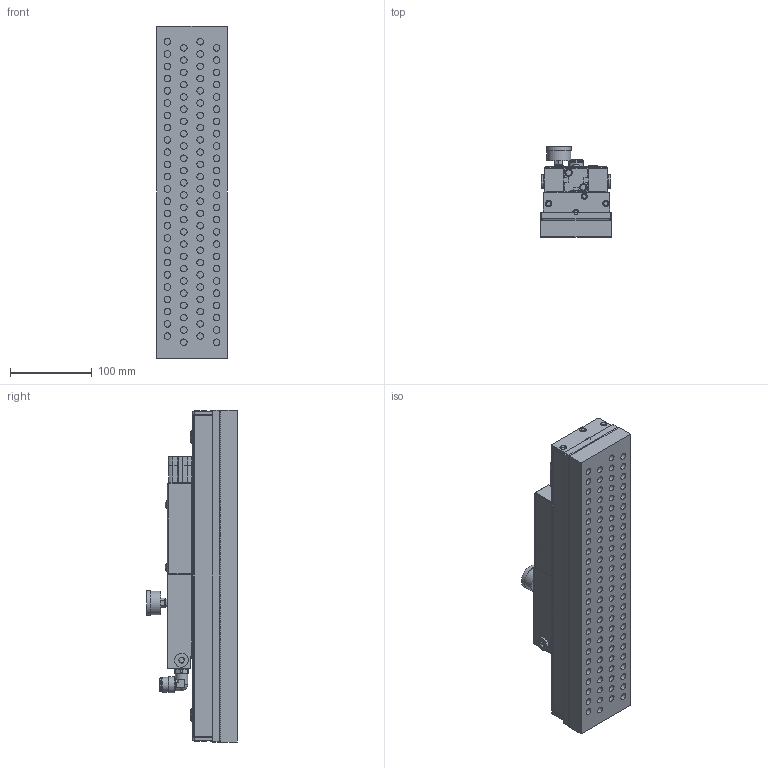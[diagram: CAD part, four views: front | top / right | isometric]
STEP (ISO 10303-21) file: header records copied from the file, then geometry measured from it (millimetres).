
FILE_DESCRIPTION (( 'STEP AP203' ), '1' );
FILE_NAME ('9671-040-014.STEP', '2014-03-20T08:00:25', ( '' ), ( '' ), 'SwSTEP 2.0', 'SolidWorks 2014', '' );
FILE_SCHEMA (( 'CONFIG_CONTROL_DESIGN' ));
Length unit declared in the file: millimetre
Products named in the file (1): 9671-040-014
Bounding box: 86 x 110.5 x 406 mm (x, y, z)
Volume: 2183917.6 mm3; surface area: 279494.3 mm2
Topology: 1 solids, 1 shells, 1130 faces, 2642 edges, 1688 vertices
Faces by surface type: plane 709, cylinder 333, cone 40, bspline 30, torus 13, sphere 5
Full cylindrical faces by diameter (mm): 4 x2, 5 x1, 6 x2, 6.5 x2, 6.8 x4, 8 x101, 8.5 x4, 9.2 x2, 9.5 x4, 9.77 x1, 10.7 x2, 12 x1, 13.157 x2, 14.8 x9, 15 x5, 15.4 x3, 16.8 x1, 17 x8, 17.7 x1, 18 x1, 19.5 x1, 27 x1, 29 x1, 30 x1
Entity records: 36072 total; most frequent: CARTESIAN_POINT 10950, DIRECTION 5249, ORIENTED_EDGE 4726, EDGE_CURVE 2363, AXIS2_PLACEMENT_3D 1870, VERTEX_POINT 1623, EDGE_LOOP 1554, LINE 1509
